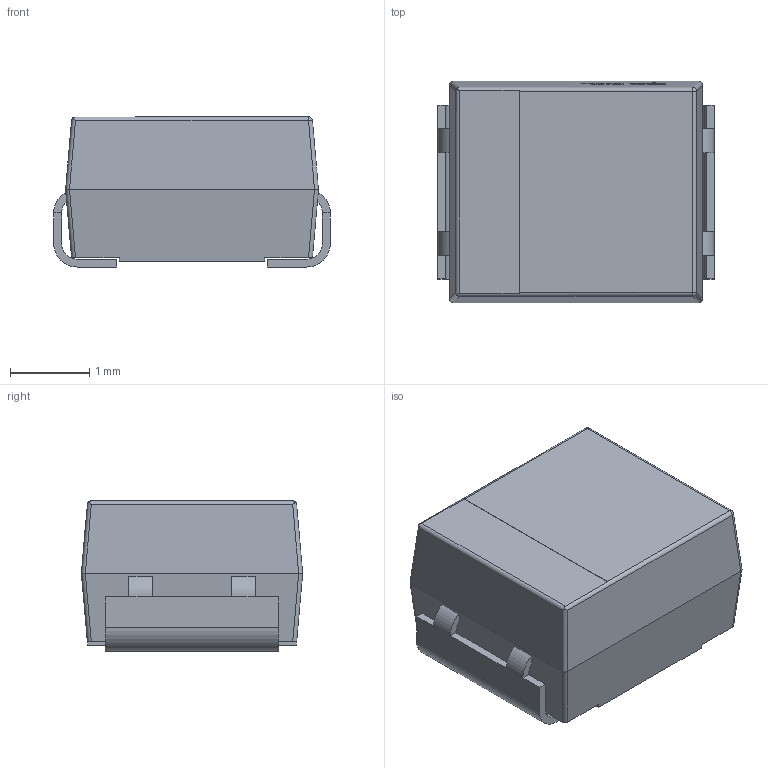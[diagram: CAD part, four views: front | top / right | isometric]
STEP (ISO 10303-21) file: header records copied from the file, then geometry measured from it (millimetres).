
FILE_DESCRIPTION(/* description */ ('STEP AP242 Edition 2','CAx-IF Rec.Pracs.---Representation and Presentation of Product Manufacturing Information (PMI)---4.0---2014-10-13','CAx-IF Rec.Pracs.---3D Tessellated Geometry---0.4---2014-09-14','2;1','CAx-IF Rec.Pracs.---User Defined Attributes---1.5---2016-08-15'),/* implementation_level */ '2;1');
FILE_NAME(/* name */ 'Assembly 1 - CAP-SMD_L3.2-W2.8-FD~CAP-SMD_L3.2-W2.8-FD~nxQB',/* time_stamp */ '2026-04-02T09:55:10Z',/* author */ (''),/* organization */ (''),/* preprocessor_version */ 'ST-DEVELOPER v20',/* originating_system */ 'ONSHAPE BY PTC INC, 1.212',/* authorisation */ ' ');
FILE_SCHEMA (('AP242_MANAGED_MODEL_BASED_3D_ENGINEERING_MIM_LF { 1 0 10303 442 3 1 4 }'));
Length unit declared in the file: metre
Products named in the file (1): CAP-SMD_L3.2-W2.8-FD~CAP-SMD_L3.2-W2.8-FD~nxQB
Bounding box: 3.5 x 2.8 x 1.9 mm (x, y, z)
Volume: 16 mm3; surface area: 50.2 mm2
Topology: 1 solids, 1 shells, 294 faces, 768 edges, 493 vertices
Faces by surface type: plane 170, bspline 83, cylinder 37, sphere 4
Entity records: 11448 total; most frequent: CARTESIAN_POINT 2670, ORIENTED_EDGE 1532, DIRECTION 1101, EDGE_CURVE 766, LINE 521, VECTOR 521, VERTEX_POINT 493, EDGE_LOOP 317
